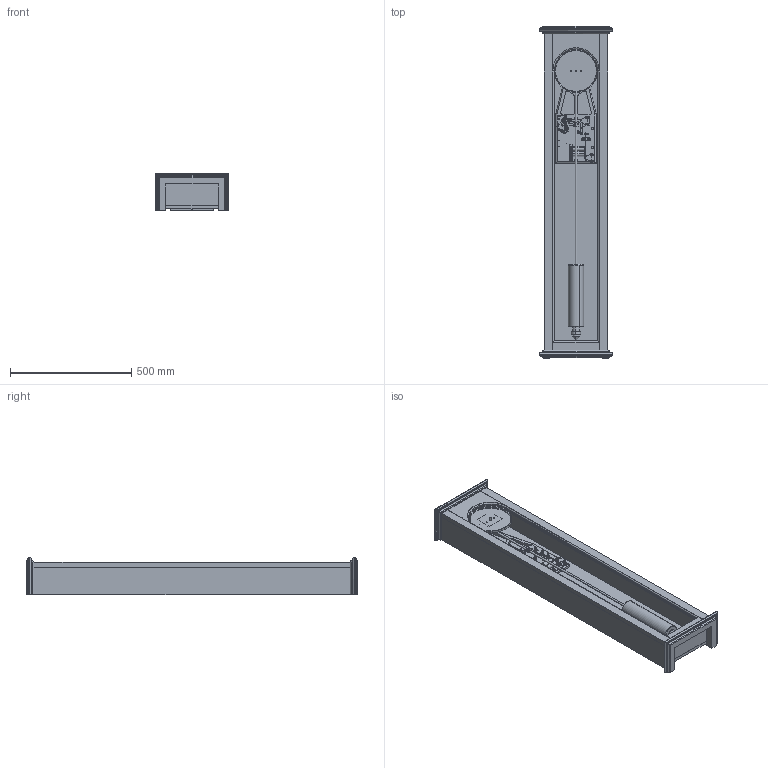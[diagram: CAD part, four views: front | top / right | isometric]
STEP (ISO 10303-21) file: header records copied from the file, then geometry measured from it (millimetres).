
FILE_DESCRIPTION (( 'STEP AP214' ), '1' );
FILE_NAME ('SYNCHRONOME.STEP', '2015-10-14T13:29:45', ( 'Dell' ), ( 'Windows User' ), 'SwSTEP 2.0', 'SolidWorks 2015', '' );
FILE_SCHEMA (( 'AUTOMOTIVE_DESIGN' ));
Length unit declared in the file: inch
Products named in the file (82): Machine Screw Nut Hex_AI_MSHXNUT 0.086-56-S-N; SYNCHRONOME; pallet assy; TRIP ARM; Trim_bottom; Socket Head Cap Screw_AI_HX-SHCS 0.138-32x0.5x0.5-N; 15 tooth wheel_light weight; Trim_trim; Socket Head Cap Screw_AI_HX-SHCS 0.086-56x0.5x0.5-N; Socket Head Cap Screw_AI_HX-SHCS 0.086-560.3125x0.3125-N; Catch Arbor_WHEEL ARBOR; top - bottom plate; brass terminal; gathering retainer; DETENT; case back; Socket Head Cap Screw_AI_HX-SHCS 0.112-40x0.3125x0.3125-N; Brass Impulse Pallet_machined; Catch Arbor_detent arbor; side; INSULATE PLATE; 10-30 all thread; DETENT ROLLER; dial pan; Impulse roller; pendulum rod; SMALL DOWEL; movement; Socket Button Head Cap Screw_AI_SBHCSCREW 0.112-40x0.375-HX-N; pendulum rod spring block; DETENT CLAMP; door; Socket Head Cap Screw_AI_HX-SHCS 0.06-80x0.188x0.188-N; Socket Head Cap Screw_AI_HX-SHCS 0.112-40x0.75x0.75-N; Detent; door top; Gravity Arm Spring_2CP; ARMATURE; catch assembly; door bottom_top door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
Assembly tree (116 placements, depth 4):
  SYNCHRONOME
    base casting
    15 tooth assy
      19 base plate 15 tooth assy
      40 top plate 15 tooth assy
      Socket Button Head Cap Screw_AI_SBHCSCREW 0.138-32x0.25-HX-N  x4
      STANDOFF 15 TOOTH WHEEL  x2
      catch assembly
        Catch Arbor
        accelerator catch
        gravity arm catch
      DETENT
        Detent
        DETENT CLAMP
        SMALL DOWEL
        DETENT ROLLER
        Catch Arbor_detent arbor
      WHEEL
        Catch Arbor_WHEEL ARBOR
        15 tooth wheel_light weight
        TRIP ARM
    plate assy  x2
      42A Back Plate For Armature
      42A Back Plate For Armature_41 Front Plate For Armature
      39 POST
      Socket Button Head Cap Screw_AI_SBHCSCREW 0.112-40x0.25-HX-N
    gravity lever
      11 gravity lever
      P11b standoff  x2
      bridge plate
      Gravity Arm Spring_2CP
      Socket Head Cap Screw_AI_HX-SHCS 0.06-80x0.188x0.188-N
      Socket Button Head Cap Screw_AI_SBHCSCREW 0.112-40x0.375-HX-N  x4
      Impulse roller
      INSULATE PLATE
      Socket Head Cap Screw_AI_HX-SHCS 0.112-40x0.3125x0.3125-N  x3
      brass terminal
      Socket Head Cap Screw_AI_HX-SHCS 0.086-56x0.5x0.5-N
      Machine Screw Nut Hex_AI_MSHXNUT 0.086-56-S-N
    Socket Head Cap Screw_AI_HX-SHCS 0.138-32x0.3125x0.3125-N  x7
    fixed chop_loose chop
    fixed chop
    top pendulum rod
    suspension spring
    Gathering Jewel
      gathering jewel wire
      Jewel
    ARMATURE
    Socket Head Cap Screw_AI_HX-SHCS 0.112-40x0.75x0.75-N
    Pendulum
      pendulum rod spring block
      pendulum rod
      10-30 all thread
      pallet assy
        Brass Impulse Pallet_machined
        gathering retainer
        Socket Head Cap Screw_AI_HX-SHCS 0.086-560.3125x0.3125-N
        Socket Head Cap Screw_AI_HX-SHCS 0.138-32x0.5x0.5-N
      bob
      bob nut
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Bounding box: 304.8 x 1368.42 x 155.57 mm (x, y, z)
Volume: 15181055.4 mm3; surface area: 2483562.3 mm2
Topology: 112 solids, 112 shells, 2651 faces, 6269 edges, 3866 vertices
Faces by surface type: plane 1235, cylinder 919, cone 369, torus 71, sphere 47, bspline 10
Entity records: 54835 total; most frequent: CARTESIAN_POINT 9761, DIRECTION 8843, ORIENTED_EDGE 7962, EDGE_CURVE 3981, AXIS2_PLACEMENT_3D 3273, VERTEX_POINT 2555, LINE 2297, VECTOR 2297
